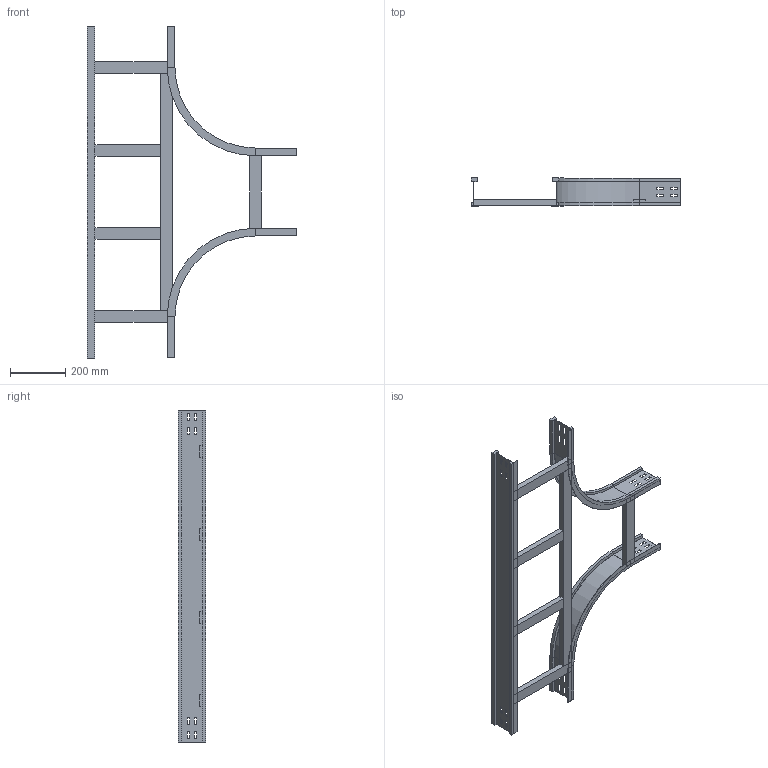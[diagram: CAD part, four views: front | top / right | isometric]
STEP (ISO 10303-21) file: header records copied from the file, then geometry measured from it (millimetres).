
FILE_DESCRIPTION (( 'STEP AP214' ), '1' );
FILE_NAME ('15S3D300.step', '2025-02-21T16:12:22', ( '' ), ( '' ), 'SwSTEP 2.0', 'SolidWorks 2023', '' );
FILE_SCHEMA (( 'AUTOMOTIVE_DESIGN' ));
Length unit declared in the file: millimetre
Products named in the file (6): LONGH.RETT_H100_R300+300; TRAVERSINO_INTERMEDIO_R300+300; LONGH.INTERNO 90°_H100_R300; TRAVERSINO_300; TRAVERSINO_LONG._R300+300; 15S3D300
Assembly tree (9 placements, depth 2):
  15S3D300
    LONGH.INTERNO 90°_H100_R300  x2
    LONGH.RETT_H100_R300+300
    TRAVERSINO_300  x3
    TRAVERSINO_LONG._R300+300
    TRAVERSINO_INTERMEDIO_R300+300  x2
Bounding box: 759 x 100 x 1200 mm (x, y, z)
Volume: 3280822.1 mm3; surface area: 1094406.6 mm2
Topology: 9 solids, 9 shells, 222 faces, 564 edges, 360 vertices
Faces by surface type: plane 210, cylinder 12
Entity records: 4275 total; most frequent: CARTESIAN_POINT 718, ORIENTED_EDGE 696, DIRECTION 652, EDGE_CURVE 348, VECTOR 336, LINE 336, VERTEX_POINT 224, EDGE_LOOP 166
